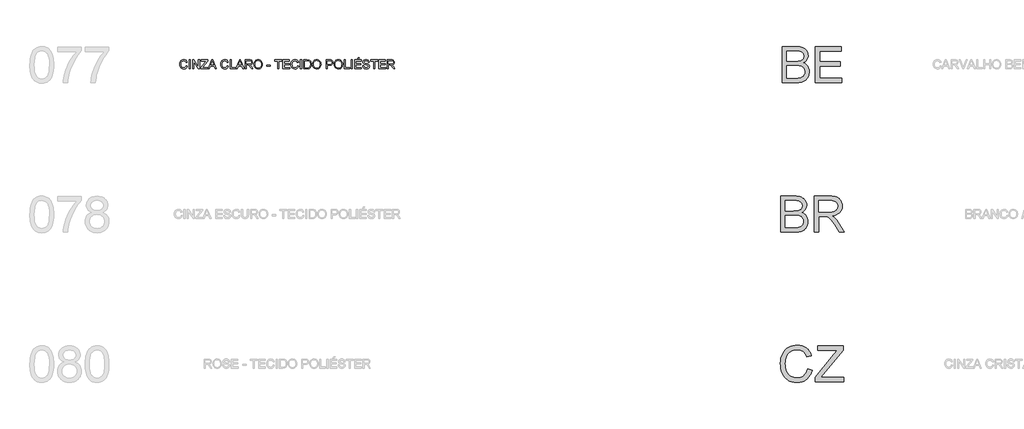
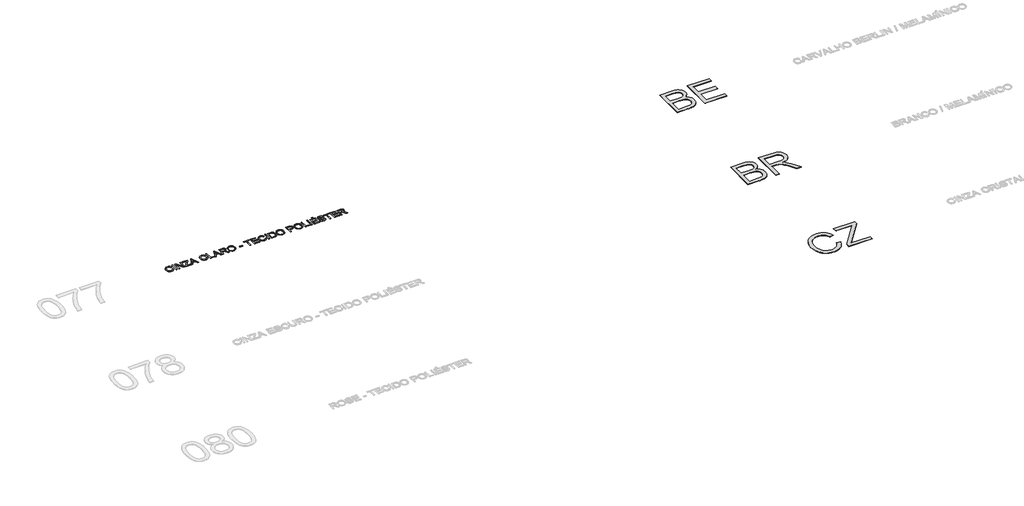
# One storey, part 30 of 67: 4 proxies.
"""IFC4 building model written with IfcOpenShell, lengths in millimetres."""

import ifcopenshell
import ifcopenshell.guid

model = None  # the IFC model being written
_history = None  # IfcOwnerHistory: only IFC2X3 demands one
_inside = {}  # id of a spatial element -> (the spatial element, [elements in it])
_under = {}  # id of a project, library or spatial element -> (it, [spatial elements below it])
_declared = {}  # id of a project -> (the project, [libraries it declares])
_typed = {}  # id of a type object -> (the type object, [elements of that type])
_made_of = {}  # id of a material, layer set ... -> (it, [elements and type objects made of it])


def new_model(schema):
    """Start an empty IFC model of exactly this schema.

    Asked for "IFC4X3", IfcOpenShell would pick the latest addendum, in which some entities
    have other attributes; the version numbers below select the first issue.
    IFC2X3 requires an IfcOwnerHistory on every rooted entity: one is made here for all.
    """
    global model, _history
    if schema == "IFC4X3":
        model = ifcopenshell.file(schema_version=(4, 3, 0, 0))
    else:
        model = ifcopenshell.file(schema=schema)
    _inside.clear()
    _under.clear()
    _declared.clear()
    _typed.clear()
    _made_of.clear()
    _history = None
    if model.schema == "IFC2X3":
        org = make("IfcOrganization", Name="unknown")
        user = make(
            "IfcPersonAndOrganization",
            ThePerson=make("IfcPerson", FamilyName="unknown"),
            TheOrganization=org,
        )
        app = make(
            "IfcApplication",
            ApplicationDeveloper=org,
            Version="unknown",
            ApplicationFullName="unknown",
            ApplicationIdentifier="unknown",
        )
        _history = make(
            "IfcOwnerHistory",
            OwningUser=user,
            OwningApplication=app,
            ChangeAction="ADDED",
            CreationDate=0,
        )
    return model


def make(cls, **values):
    """One entity of the class cls with the attributes given. An attribute that is None is left unset."""
    return model.create_entity(
        cls, **{name: value for name, value in values.items() if value is not None}
    )


def rooted(cls, **values):
    """An entity with a GlobalId (a new one), such as an element, a storey or a relation."""
    return make(cls, GlobalId=ifcopenshell.guid.new(), OwnerHistory=_history, **values)


def si_unit(unit_type, name, prefix=None):
    """IfcSIUnit, for example si_unit("LENGTHUNIT", "METRE", prefix="MILLI")."""
    return make("IfcSIUnit", UnitType=unit_type, Prefix=prefix, Name=name)


def assignment(units):
    """IfcUnitAssignment: the units of a project."""
    return None if units is None else make("IfcUnitAssignment", Units=units)


def point(xyz):
    """IfcCartesianPoint."""
    return None if xyz is None else make("IfcCartesianPoint", Coordinates=xyz)


def direction(xyz):
    """IfcDirection."""
    return None if xyz is None else make("IfcDirection", DirectionRatios=xyz)


def frame(location, z_axis=None, x_axis=None):
    """IfcAxis2Placement3D, a coordinate frame: its origin and axes. An axis left out is left unset."""
    return make(
        "IfcAxis2Placement3D",
        Location=point(location),
        Axis=direction(z_axis),
        RefDirection=direction(x_axis),
    )


def origin():
    """The frame at (0, 0, 0) with its axes left unset."""
    return frame((0.0, 0.0, 0.0))


def origin_with_axes():
    """The frame at (0, 0, 0) with the z axis (0, 0, 1) and the x axis (1, 0, 0) written out."""
    return frame((0.0, 0.0, 0.0), z_axis=(0.0, 0.0, 1.0), x_axis=(1.0, 0.0, 0.0))


def place(relative_to, where):
    """IfcLocalPlacement: puts the frame where relative to a parent placement (None: the world)."""
    return make(
        "IfcLocalPlacement", PlacementRelTo=relative_to, RelativePlacement=where
    )


def context(
    kind, dimensions, precision=None, world=None, true_north=None, identifier=None
):
    """IfcGeometricRepresentationContext, for example the 3D "Model" context."""
    return make(
        "IfcGeometricRepresentationContext",
        ContextIdentifier=identifier,
        ContextType=kind,
        CoordinateSpaceDimension=dimensions,
        Precision=precision,
        WorldCoordinateSystem=world,
        TrueNorth=true_north,
    )


def project(units=None, contexts=None):
    """IfcProject with its units and contexts."""
    return rooted(
        "IfcProject",
        Name="project",
        RepresentationContexts=contexts,
        UnitsInContext=assignment(units),
    )


def spatial(cls, under=None, at=None, **own):
    """A site, building, storey or space (cls), placed at a placement, below another one or the project."""
    s = rooted(cls, ObjectPlacement=at, **own)
    if under is not None:
        _under.setdefault(under.id(), (under, []))[1].append(s)
    return s


def polyline(points):
    """IfcPolyline through the points."""
    return make("IfcPolyline", Points=[point(p) for p in points])


def outline(outer, holes=None, kind="AREA"):
    """IfcArbitraryClosedProfileDef: a profile drawn as a closed curve; with holes, ...WithVoids."""
    if holes is None:
        return make("IfcArbitraryClosedProfileDef", ProfileType=kind, OuterCurve=outer)
    return make(
        "IfcArbitraryProfileDefWithVoids",
        ProfileType=kind,
        OuterCurve=outer,
        InnerCurves=holes,
    )


def extrude(swept, where, along, depth):
    """IfcExtrudedAreaSolid: the profile swept, set in the frame where, extruded along a direction by depth."""
    return make(
        "IfcExtrudedAreaSolid",
        SweptArea=swept,
        Position=where,
        ExtrudedDirection=direction(along),
        Depth=depth,
    )


def shape(context_of_items, identifier, shape_type, items):
    """IfcShapeRepresentation: the items that make up one representation, for example the "Body"."""
    return make(
        "IfcShapeRepresentation",
        ContextOfItems=context_of_items,
        RepresentationIdentifier=identifier,
        RepresentationType=shape_type,
        Items=items,
    )


def made_of(thing, what):
    """Note that an element or type object is made of a material, layer set ...; save() writes the relation."""
    if what is not None:
        _made_of.setdefault(what.id(), (what, []))[1].append(thing)
    return thing


def element(
    cls,
    number,
    at=None,
    inside=None,
    cuts=None,
    type_object=None,
    material=None,
    context=None,
    identifier="Body",
    shape_type=None,
    held_by="IfcProductDefinitionShape",
    body=None,
    shapes=None,
    **own,
):
    """One element of the class cls, such as IfcWall. Its Tag is "e" and its number.

    at: its placement. inside: the storey or other place that contains it. cuts: it is an
    opening in that element (IfcRelVoidsElement). A single representation is given by context,
    identifier, shape_type and body (its items); several are given by shapes. held_by: the class
    of the entity that holds the representations. save() writes the other relations.
    """
    e = rooted(cls, Tag="e%d" % number, ObjectPlacement=at, **own)
    if body is not None:
        shapes = [shape(context, identifier, shape_type, body)]
    if shapes is not None:
        e.Representation = make(held_by, Representations=shapes)
    if inside is not None:
        _inside.setdefault(inside.id(), (inside, []))[1].append(e)
    if cuts is not None:
        rooted(
            "IfcRelVoidsElement", RelatingBuildingElement=cuts, RelatedOpeningElement=e
        )
    if type_object is not None:
        _typed.setdefault(type_object.id(), (type_object, []))[1].append(e)
    return made_of(e, material)


def aggregate(whole, parts):
    """IfcRelAggregates: a whole, such as a stair, and the parts it consists of."""
    return rooted("IfcRelAggregates", RelatingObject=whole, RelatedObjects=parts)


def save(model, path):
    """Write the relations noted so far, then the file.

    IfcRelAggregates (storeys below a building ...), IfcRelContainedInSpatialStructure (elements
    in a storey), IfcRelDefinesByType, IfcRelAssociatesMaterial and IfcRelDeclares: one each for
    every whole, place, type object, material and project.
    """
    for whole, parts in _under.values():
        aggregate(whole, parts)
    for where, things in _inside.values():
        rooted(
            "IfcRelContainedInSpatialStructure",
            RelatedElements=things,
            RelatingStructure=where,
        )
    for kind, things in _typed.values():
        rooted("IfcRelDefinesByType", RelatedObjects=things, RelatingType=kind)
    for what, things in _made_of.values():
        rooted("IfcRelAssociatesMaterial", RelatedObjects=things, RelatingMaterial=what)
    for by, libraries in _declared.values():
        rooted("IfcRelDeclares", RelatingContext=by, RelatedDefinitions=libraries)
    model.write(path)


model = new_model("IFC4")

# Units and contexts
model_context = context("Model", 3, world=origin())
ifc_project = project(units=[si_unit("LENGTHUNIT", "METRE", prefix="MILLI")], contexts=[model_context])

# Site, building, storey
site = spatial("IfcSite", under=ifc_project)
building = spatial("IfcBuilding", under=site)
storey = spatial("IfcBuildingStorey", under=building, Name="Marelli - Linha COLAB - Planta Baixa", Elevation=0.0)

# Proxies
placement = place(None, origin())
element("IfcBuildingElementProxy", 1, Name="1200mm Arial", ObjectType="1200mm Arial", at=placement, inside=storey, context=model_context, shape_type="SweptSolid", body=[
    extrude(outline(polyline([(24922.4641906, -97988.8184403), (24922.4641906, -96783.3427185), (25382.4638374, -96783.3427185), (25449.1884343, -96785.5592075), (25508.9784555, -96792.2086746), (25561.8339012, -96803.2911197), (25607.7547713, -96818.8065428), (25647.909091, -96838.9204909), (25683.4648859, -96863.7985108), (25714.4221558, -96893.4406026), (25740.7809007, -96927.8467662), (25761.8329479, -96965.0764241), (25776.8701244, -97003.1889988), (25785.8924304, -97042.1844903), (25788.8998657, -97082.0628986), (25786.370677, -97118.8970833), (25778.7831108, -97154.6460162), (25766.1371672, -97189.3096972), (25748.4328462, -97222.8881263), (25725.6149655, -97254.3328398), (25697.6283427, -97282.5953741), (25664.4729779, -97307.6757291), (25626.148871, -97329.5739049), (25671.6282827, -97348.9612861), (25711.5342821, -97374.1612027), (25745.8668693, -97405.1736549), (25774.6260443, -97441.9986426), (25797.3519545, -97483.5141258), (25813.5847476, -97528.5980643), (25823.3244234, -97577.2504582), (25826.570982, -97629.4713074), (25824.354493, -97672.2651805), (25817.7050259, -97713.5323433), (25806.6225808, -97753.2727958), (25791.1071576, -97791.4865381), (25772.3175847, -97826.7848155), (25751.4126904, -97857.7788736), (25728.3924745, -97884.4687123), (25703.2569372, -97906.8543317), (25675.4174672, -97925.8554368), (25644.2854534, -97942.3917325), (25609.8608957, -97956.4632188), (25572.1437941, -97968.0698957), (25530.5455375, -97977.147384), (25484.4775147, -97983.6313041), (25378.9321703, -97988.8184403), (24922.4641906, -97988.8184403)]), holes=[polyline([(25073.1486559, -97273.0672304), (25348.3243883, -97273.0672304), (25444.5623182, -97269.8298689), (25509.0152437, -97260.1177842), (25539.117188, -97250.3413202), (25565.2644008, -97237.7873471), (25587.4568822, -97222.455865), (25605.6946321, -97204.3468738), (25619.9224682, -97183.5891322), (25630.0852084, -97160.3113989), (25636.1828524, -97134.513674), (25638.2154005, -97106.1959574), (25636.3208082, -97079.0830544), (25630.6370314, -97053.6624085), (25621.16407, -97029.9340198), (25607.9019241, -97007.8978883), (25591.108111, -96988.3725514), (25571.0401481, -96972.1765466), (25547.6980355, -96959.3098738), (25521.0817732, -96949.7725331), (25487.7884526, -96942.8839427), (25444.4151654, -96937.963521), (25327.4286909, -96934.0271837), (25073.1486559, -96934.0271837), (25073.1486559, -97273.0672304)]), polyline([(25073.1486559, -97838.133975), (25382.1695318, -97838.133975), (25449.8598189, -97836.6624471), (25494.0056583, -97832.2478631), (25545.9138079, -97819.1880523), (25588.6249075, -97799.4327891), (25623.3529678, -97771.1426637), (25651.3119995, -97732.478266), (25662.0633508, -97709.6879764), (25669.7428874, -97685.1686414), (25674.3506094, -97658.9202611), (25675.8865168, -97630.9428354), (25674.083895, -97598.3484906), (25668.6760297, -97567.9614378), (25659.6629208, -97539.781677), (25647.0445683, -97513.8092081), (25630.388711, -97490.7889922), (25609.2630874, -97471.4659904), (25583.6676976, -97455.8402027), (25553.6025416, -97443.911629), (25517.7432441, -97435.0916582), (25474.76543, -97428.791679), (25367.454252, -97423.7516957), (25073.1486559, -97423.7516957), (25073.1486559, -97838.133975)])]), origin_with_axes(), (0.0, 0.0, 1.0), 10.0),
    extrude(outline(polyline([(26033.7621217, -97988.8184403), (26033.7621217, -96783.3427185), (26900.1977967, -96783.3427185), (26900.1977967, -96934.0271837), (26184.4465869, -96934.0271837), (26184.4465869, -97291.9027886), (26862.5266804, -97291.9027886), (26862.5266804, -97442.5872538), (26184.4465869, -97442.5872538), (26184.4465869, -97838.133975), (26919.0333549, -97838.133975), (26919.0333549, -97988.8184403), (26033.7621217, -97988.8184403)])), origin_with_axes(), (0.0, 0.0, 1.0), 10.0),
])
element("IfcBuildingElementProxy", 2, Name="1200mm Arial", ObjectType="1200mm Arial", at=placement, inside=storey, context=model_context, shape_type="SweptSolid", body=[
    extrude(outline(polyline([(24875.3752953, -102988.8184403), (24875.3752953, -101783.3427185), (25335.374942, -101783.3427185), (25402.0995389, -101785.5592075), (25461.8895602, -101792.2086746), (25514.7450058, -101803.2911197), (25560.6658759, -101818.8065428), (25600.8201956, -101838.9204909), (25636.3759905, -101863.7985108), (25667.3332604, -101893.4406026), (25693.6920053, -101927.8467662), (25714.7440525, -101965.0764241), (25729.7812291, -102003.1889988), (25738.803535, -102042.1844903), (25741.8109703, -102082.0628986), (25739.2817816, -102118.8970833), (25731.6942154, -102154.6460162), (25719.0482718, -102189.3096972), (25701.3439508, -102222.8881263), (25678.5260701, -102254.3328398), (25650.5394473, -102282.5953741), (25617.3840825, -102307.6757291), (25579.0599756, -102329.5739049), (25624.5393873, -102348.9612861), (25664.4453867, -102374.1612027), (25698.7779739, -102405.1736549), (25727.5371489, -102441.9986426), (25750.2630591, -102483.5141258), (25766.4958522, -102528.5980643), (25776.235528, -102577.2504582), (25779.4820866, -102629.4713074), (25777.2655976, -102672.2651805), (25770.6161305, -102713.5323433), (25759.5336854, -102753.2727958), (25744.0182623, -102791.4865381), (25725.2286894, -102826.7848155), (25704.323795, -102857.7788736), (25681.3035791, -102884.4687123), (25656.1680418, -102906.8543317), (25628.3285718, -102925.8554368), (25597.196558, -102942.3917325), (25562.7720003, -102956.4632188), (25525.0548987, -102968.0698957), (25483.4566421, -102977.147384), (25437.3886193, -102983.6313041), (25331.8432749, -102988.8184403), (24875.3752953, -102988.8184403)]), holes=[polyline([(25026.0597605, -102273.0672304), (25301.2354929, -102273.0672304), (25397.4734228, -102269.8298689), (25461.9263484, -102260.1177842), (25492.0282926, -102250.3413202), (25518.1755054, -102237.7873471), (25540.3679868, -102222.455865), (25558.6057367, -102204.3468738), (25572.8335729, -102183.5891322), (25582.996313, -102160.3113989), (25589.093957, -102134.513674), (25591.1265051, -102106.1959574), (25589.2319128, -102079.0830544), (25583.548136, -102053.6624085), (25574.0751746, -102029.9340198), (25560.8130287, -102007.8978883), (25544.0192156, -101988.3725514), (25523.9512528, -101972.1765466), (25500.6091402, -101959.3098738), (25473.9928778, -101949.7725331), (25440.6995572, -101942.8839427), (25397.32627, -101937.963521), (25280.3397955, -101934.0271837), (25026.0597605, -101934.0271837), (25026.0597605, -102273.0672304)]), polyline([(25026.0597605, -102838.133975), (25335.0806364, -102838.133975), (25402.7709235, -102836.6624471), (25446.916763, -102832.2478631), (25498.8249125, -102819.1880523), (25541.5360121, -102799.4327891), (25576.2640725, -102771.1426637), (25604.2231041, -102732.478266), (25614.9744554, -102709.6879764), (25622.6539921, -102685.1686414), (25627.261714, -102658.9202611), (25628.7976214, -102630.9428354), (25626.9949996, -102598.3484906), (25621.5871343, -102567.9614378), (25612.5740254, -102539.781677), (25599.955673, -102513.8092081), (25583.2998156, -102490.7889922), (25562.1741921, -102471.4659904), (25536.5788022, -102455.8402027), (25506.5136462, -102443.911629), (25470.6543487, -102435.0916582), (25427.6765346, -102428.791679), (25320.3653566, -102423.7516957), (25026.0597605, -102423.7516957), (25026.0597605, -102838.133975)])]), origin_with_axes(), (0.0, 0.0, 1.0), 10.0),
    extrude(outline(polyline([(25986.6732263, -102988.8184403), (25986.6732263, -101783.3427185), (26506.1226035, -101783.3427185), (26580.6830868, -101785.3752665), (26645.7338206, -101791.4729106), (26701.2748049, -101801.6356507), (26747.3060395, -101815.8634868), (26786.5038661, -101835.250868), (26821.5446261, -101860.8922431), (26852.4283196, -101892.787612), (26879.1549466, -101930.9369749), (26900.7220286, -101973.2893896), (26916.1270871, -102017.793914), (26925.3701222, -102064.450548), (26928.4511339, -102113.2592917), (26923.3467713, -102175.1738315), (26908.0336832, -102232.0115998), (26882.5118698, -102283.7725965), (26846.781331, -102330.4568217), (26824.9728265, -102351.5226644), (26800.3822144, -102370.5743533), (26742.8546674, -102402.6352692), (26674.19869, -102426.6395693), (26594.4142823, -102442.5872538), (26644.0783517, -102475.0344458), (26680.0572108, -102507.0401794), (26741.7878096, -102580.2486964), (26802.1940332, -102662.1392285), (27003.2047554, -102988.8184403), (26828.0929257, -102988.8184403), (26671.2280429, -102738.9529891), (26608.4673745, -102643.597976), (26557.9203884, -102573.5532441), (26515.7978999, -102525.3239145), (26478.3107246, -102495.4151083), (26442.8101121, -102477.8671372), (26406.647312, -102466.7203127), (26371.4042168, -102462.7471872), (26319.2385499, -102461.422812), (26137.3576915, -102461.422812), (26137.3576915, -102988.8184403), (25986.6732263, -102988.8184403)]), holes=[polyline([(26137.3576915, -102310.7383468), (26474.6319047, -102310.7383468), (26571.495234, -102305.4040578), (26611.7875095, -102298.7361967), (26646.6535256, -102289.401191), (26676.8750315, -102277.1323265), (26703.2337765, -102261.6628886), (26725.7297605, -102242.9928773), (26744.3629836, -102221.1222927), (26758.9770958, -102197.1271896), (26769.4157474, -102172.0836228), (26775.6789384, -102145.9915923), (26777.7666687, -102118.8510981), (26773.7843461, -102080.3154591), (26761.8373783, -102045.3482754), (26741.9257653, -102013.9495471), (26714.0495071, -101986.1192742), (26677.5648103, -101963.3289846), (26631.8278812, -101947.0502063), (26576.83872, -101937.2829394), (26512.5973266, -101934.0271837), (26137.3576915, -101934.0271837), (26137.3576915, -102310.7383468)])]), origin_with_axes(), (0.0, 0.0, 1.0), 10.0),
])
element("IfcBuildingElementProxy", 3, Name="1200mm Arial", ObjectType="1200mm Arial", at=placement, inside=storey, context=model_context, shape_type="SweptSolid", body=[
    extrude(outline(polyline([(25770.0643075, -107560.3094923), (25920.7487727, -107599.157831), (25907.0773581, -107647.4906274), (25890.931937, -107692.8665722), (25872.3125096, -107735.2856655), (25851.2190757, -107774.7479073), (25827.6516353, -107811.2532975), (25801.6101886, -107844.8018362), (25773.0947355, -107875.3935234), (25742.1052759, -107903.028359), (25708.9775022, -107927.5499932), (25674.0471068, -107948.8020762), (25637.3140896, -107966.784608), (25598.7784506, -107981.4975886), (25558.4401898, -107992.9410179), (25516.2993073, -108001.114896), (25472.3558029, -108006.0192228), (25426.6096768, -108007.6539984), (25334.7219515, -108002.7059856), (25251.8289409, -107987.8619471), (25177.9306451, -107963.1218829), (25144.3545153, -107947.0408412), (25113.0270641, -107928.4857931), (25056.2260841, -107884.4687123), (25006.6355911, -107831.5856755), (24964.2555853, -107769.8366826), (24929.0860666, -107699.2217337), (24901.4673258, -107622.7942492), (24881.7396538, -107543.6076497), (24869.9030506, -107461.6619353), (24865.9575162, -107376.9571059), (24870.4180854, -107286.071859), (24883.7997929, -107201.1830886), (24906.1026389, -107122.2907947), (24937.3266232, -107049.3949774), (24976.7727702, -106983.7004501), (25023.7421039, -106926.4120264), (25078.2346244, -106877.5297063), (25140.2503318, -106837.0534898), (25207.6831015, -106805.3144706), (25278.4268092, -106782.6437427), (25352.4814548, -106769.0413059), (25429.8470384, -106764.5071603), (25516.0325928, -106770.3748781), (25556.4421307, -106777.7095254), (25595.0628424, -106787.9780316), (25631.8947279, -106801.1803967), (25666.9377872, -106817.3166207), (25700.1920203, -106836.3867036), (25731.6574272, -106858.3906455), (25761.0672935, -106883.0571333), (25788.1549046, -106910.114854), (25812.9202607, -106939.5638077), (25835.3633617, -106971.4039944), (25855.4842075, -107005.6354141), (25873.2827983, -107042.2580667), (25901.9132146, -107122.6770708), (25751.2287494, -107158.5823536), (25727.5003607, -107099.3257612), (25698.9895061, -107048.6960016), (25665.6961855, -107006.6930748), (25627.620399, -106973.3169808), (25584.5414174, -106947.8871379), (25536.2385114, -106929.7229644), (25482.7116811, -106918.8244602), (25423.9609265, -106915.1916255), (25356.3626098, -106919.2199334), (25294.5400406, -106931.3048569), (25238.4932186, -106951.4463962), (25188.222144, -106979.6445511), (25144.3614131, -107014.6301288), (25107.5456224, -107055.1339365), (25077.774772, -107101.1559741), (25055.0488617, -107152.6962416), (25038.2458516, -107207.4186884), (25026.2437015, -107262.9872638), (25019.0424114, -107319.4019677), (25016.6419814, -107376.6628003), (25019.4838698, -107448.6205185), (25028.0095351, -107515.8693473), (25042.2189771, -107578.4092864), (25062.112196, -107636.2403361), (25088.0110885, -107688.212865), (25120.2375512, -107733.1772418), (25158.7915843, -107771.1334667), (25203.6731878, -107802.0815395), (25252.7026607, -107826.0950367), (25303.7003022, -107843.2475348), (25356.6661125, -107853.5390336), (25411.6000914, -107856.9695332), (25477.1106777, -107852.2974319), (25537.3789456, -107838.2811278), (25592.404895, -107814.9206211), (25642.188526, -107782.2159118), (25685.5526162, -107740.3141525), (25721.3199432, -107689.3624962), (25749.4905069, -107629.3609428), (25770.0643075, -107560.3094923)])), origin_with_axes(), (0.0, 0.0, 1.0), 10.0),
    extrude(outline(polyline([(26033.7621217, -107988.8184403), (26033.7621217, -107832.5421687), (26650.3323456, -107077.6483146), (26767.4659728, -106934.0271837), (26109.1043543, -106934.0271837), (26109.1043543, -106783.3427185), (26956.7044712, -106783.3427185), (26956.7044712, -106934.0271837), (26281.8617392, -107760.1429921), (26218.2917304, -107838.133975), (26975.5400293, -107838.133975), (26975.5400293, -107988.8184403), (26033.7621217, -107988.8184403)])), origin_with_axes(), (0.0, 0.0, 1.0), 10.0),
])
element("IfcBuildingElementProxy", 4, Name="300mm Arial", ObjectType="300mm Arial", at=placement, inside=storey, context=model_context, shape_type="SweptSolid", body=[
    extrude(outline(polyline([(5037.4116395, -97423.4390831), (5075.0827558, -97433.1511677), (5067.6285469, -97456.5783531), (5057.7003315, -97477.0486868), (5045.2981098, -97494.5621691), (5030.4218816, -97509.1187997), (5013.4073393, -97520.5622291), (4994.5901753, -97528.7361071), (4973.9703894, -97533.640434), (4951.5479818, -97535.2752096), (4907.8527979, -97530.3271968), (4873.1523287, -97515.4831583), (4846.5544604, -97491.2581289), (4827.1670793, -97458.1671434), (4815.3304761, -97419.2636224), (4811.3849417, -97377.6009865), (4815.8455109, -97333.6574821), (4829.2272184, -97295.7104543), (4850.8310886, -97264.9647166), (4879.9581456, -97242.6250824), (4914.5022649, -97229.0226457), (4952.3573222, -97224.4885001), (4993.6612732, -97230.3562179), (5011.6300094, -97237.6908652), (5027.8099194, -97247.9593714), (5041.9342888, -97260.8904235), (5053.736403, -97276.2127086), (5070.3738663, -97314.0309777), (5032.70275, -97323.0072984), (5019.6429391, -97295.5357104), (5001.8006624, -97276.6909552), (4978.9551905, -97265.7924511), (4950.8857942, -97262.1596164), (4918.5305728, -97266.1879242), (4891.9510986, -97278.2728478), (4871.7819682, -97297.1451941), (4858.6577781, -97321.5357704), (4851.456488, -97349.1085259), (4849.056058, -97377.5274101), (4851.8979464, -97412.3290468), (4860.4236116, -97442.421794), (4874.9549504, -97466.6560205), (4895.8138596, -97483.8820949), (4920.8206382, -97494.1735937), (4947.7955855, -97497.6040933), (4979.240299, -97492.931992), (5005.4426941, -97478.9156879), (5025.2255484, -97455.702334), (5037.4116395, -97423.4390831)])), origin_with_axes(), (0.0, 0.0, 1.0), 10.0),
    extrude(outline(polyline([(5131.5894303, -97530.5663201), (5131.5894303, -97229.1973896), (5169.2605466, -97229.1973896), (5169.2605466, -97530.5663201), (5131.5894303, -97530.5663201)])), origin_with_axes(), (0.0, 0.0, 1.0), 10.0),
    extrude(outline(polyline([(5244.6027792, -97530.5663201), (5244.6027792, -97229.1973896), (5284.9226459, -97229.1973896), (5442.3761398, -97467.9528045), (5442.3761398, -97229.1973896), (5480.0472561, -97229.1973896), (5480.0472561, -97530.5663201), (5439.7273894, -97530.5663201), (5282.2738955, -97291.7373288), (5282.2738955, -97530.5663201), (5244.6027792, -97530.5663201)])), origin_with_axes(), (0.0, 0.0, 1.0), 10.0),
    extrude(outline(polyline([(5522.4272619, -97530.5663201), (5522.4272619, -97491.4972522), (5676.5698179, -97302.7737887), (5705.8532247, -97266.8685059), (5541.2628201, -97266.8685059), (5541.2628201, -97229.1973896), (5753.1628493, -97229.1973896), (5753.1628493, -97266.8685059), (5584.4521663, -97473.397458), (5568.5596641, -97492.8952038), (5757.8717389, -97492.8952038), (5757.8717389, -97530.5663201), (5522.4272619, -97530.5663201)])), origin_with_axes(), (0.0, 0.0, 1.0), 10.0),
    extrude(outline(polyline([(5765.1558024, -97530.5663201), (5885.4532148, -97229.1973896), (5917.5325248, -97229.1973896), (6037.8299372, -97530.5663201), (5998.0251053, -97530.5663201), (5963.5177742, -97436.3885293), (5839.394389, -97436.3885293), (5804.9606342, -97530.5663201), (5765.1558024, -97530.5663201)]), holes=[polyline([(5853.226752, -97398.717413), (5949.7589875, -97398.717413), (5922.6092963, -97324.6259792), (5901.4928698, -97266.8685059), (5882.730888, -97318.1512561), (5853.226752, -97398.717413)])]), origin_with_axes(), (0.0, 0.0, 1.0), 10.0),
    extrude(outline(polyline([(6407.6984951, -97423.4390831), (6445.3696114, -97433.1511677), (6437.9154025, -97456.5783531), (6427.9871872, -97477.0486868), (6415.5849654, -97494.5621691), (6400.7087372, -97509.1187997), (6383.694195, -97520.5622291), (6364.8770309, -97528.7361071), (6344.2572451, -97533.640434), (6321.8348375, -97535.2752096), (6278.1396535, -97530.3271968), (6243.4391843, -97515.4831583), (6216.841316, -97491.2581289), (6197.4539349, -97458.1671434), (6185.6173317, -97419.2636224), (6181.6717973, -97377.6009865), (6186.1323665, -97333.6574821), (6199.5140741, -97295.7104543), (6221.1179442, -97264.9647166), (6250.2450012, -97242.6250824), (6284.7891206, -97229.0226457), (6322.6441779, -97224.4885001), (6363.9481289, -97230.3562179), (6381.9168651, -97237.6908652), (6398.0967751, -97247.9593714), (6412.2211444, -97260.8904235), (6424.0232587, -97276.2127086), (6440.6607219, -97314.0309777), (6402.9896056, -97323.0072984), (6389.9297948, -97295.5357104), (6372.087518, -97276.6909552), (6349.2420461, -97265.7924511), (6321.1726499, -97262.1596164), (6288.8174284, -97266.1879242), (6262.2379542, -97278.2728478), (6242.0688239, -97297.1451941), (6228.9446337, -97321.5357704), (6221.7433436, -97349.1085259), (6219.3429136, -97377.5274101), (6222.184802, -97412.3290468), (6230.7104673, -97442.421794), (6245.2418061, -97466.6560205), (6266.1007152, -97483.8820949), (6291.1074938, -97494.1735937), (6318.0824411, -97497.6040933), (6349.5271547, -97492.931992), (6375.7295498, -97478.9156879), (6395.5124041, -97455.702334), (6407.6984951, -97423.4390831)])), origin_with_axes(), (0.0, 0.0, 1.0), 10.0),
    extrude(outline(polyline([(6497.1673964, -97530.5663201), (6497.1673964, -97229.1973896), (6534.8385127, -97229.1973896), (6534.8385127, -97492.8952038), (6685.5229779, -97492.8952038), (6685.5229779, -97530.5663201), (6497.1673964, -97530.5663201)])), origin_with_axes(), (0.0, 0.0, 1.0), 10.0),
    extrude(outline(polyline([(6692.8070414, -97530.5663201), (6813.1044538, -97229.1973896), (6845.1837638, -97229.1973896), (6965.4811762, -97530.5663201), (6925.6763444, -97530.5663201), (6891.1690132, -97436.3885293), (6767.045628, -97436.3885293), (6732.6118733, -97530.5663201), (6692.8070414, -97530.5663201)]), holes=[polyline([(6780.877991, -97398.717413), (6877.4102266, -97398.717413), (6850.2605353, -97324.6259792), (6829.1441088, -97266.8685059), (6810.3821271, -97318.1512561), (6780.877991, -97398.717413)])]), origin_with_axes(), (0.0, 0.0, 1.0), 10.0),
    extrude(outline(polyline([(7005.7274665, -97530.5663201), (7005.7274665, -97229.1973896), (7135.5898108, -97229.1973896), (7170.4926151, -97231.2299376), (7195.8856698, -97237.3275817), (7214.4453165, -97248.5847708), (7228.8478966, -97266.0959537), (7238.0909317, -97287.8101885), (7241.1719434, -97311.6765329), (7236.0675807, -97341.3646099), (7220.7544927, -97365.9759154), (7209.1547135, -97376.0052983), (7194.7728268, -97384.0205273), (7157.6627305, -97394.0085235), (7179.0734626, -97410.1217548), (7209.6076682, -97448.8965171), (7259.8603488, -97530.5663201), (7216.0823913, -97530.5663201), (7176.8661707, -97468.0999573), (7148.539257, -97426.750021), (7128.6368411, -97407.2154871), (7110.7209879, -97400.0417882), (7088.8687974, -97398.717413), (7043.3985828, -97398.717413), (7043.3985828, -97530.5663201), (7005.7274665, -97530.5663201)]), holes=[polyline([(7043.3985828, -97361.0462967), (7127.7171361, -97361.0462967), (7151.9329684, -97359.7127245), (7170.7225413, -97355.7120078), (7184.8676041, -97348.7774322), (7195.1499058, -97338.6422832), (7201.4130968, -97326.3826157), (7203.5008271, -97313.0744845), (7199.5185045, -97294.6987789), (7187.5715367, -97279.8915286), (7167.0161302, -97270.1242616), (7137.2084916, -97266.8685059), (7043.3985828, -97266.8685059), (7043.3985828, -97361.0462967)])]), origin_with_axes(), (0.0, 0.0, 1.0), 10.0),
    extrude(outline(polyline([(7292.9697283, -97383.8549804), (7295.480523, -97348.5061192), (7303.0129068, -97317.213157), (7315.5668799, -97289.9760937), (7333.1424422, -97266.7949295), (7354.6865316, -97248.2858666), (7379.1460857, -97235.0651074), (7406.5211047, -97227.1326519), (7436.8115884, -97224.4885001), (7476.3405088, -97229.454907), (7511.7859391, -97244.3541278), (7541.2164987, -97268.1376988), (7562.7008072, -97299.7571563), (7575.8341944, -97337.68579), (7580.2119902, -97380.3968896), (7575.6042682, -97423.6782064), (7561.7811022, -97462.140269), (7539.5058474, -97493.8149087), (7509.5418589, -97516.733957), (7474.3999313, -97530.6398965), (7436.5908593, -97535.2752096), (7396.4549336, -97530.1524528), (7360.8071682, -97514.7841825), (7331.450185, -97490.5591531), (7310.1866057, -97458.8661192), (7297.2739477, -97422.3998164), (7292.9697283, -97383.8549804)]), holes=[polyline([(7330.6408446, -97384.2228624), (7332.5239406, -97409.1974513), (7338.1732285, -97431.3669401), (7347.5887083, -97450.7313286), (7360.77038, -97467.2906169), (7376.7939402, -97480.5527628), (7394.7350853, -97490.0257242), (7414.5938152, -97495.709501), (7436.3701301, -97497.6040933), (7458.5189254, -97495.6911069), (7478.6121802, -97489.9521478), (7496.6498942, -97480.3872159), (7512.6320677, -97466.9963113), (7525.7171704, -97450.0875351), (7535.0636723, -97429.9689885), (7540.6715735, -97406.6406715), (7542.5408739, -97380.102584), (7539.3403005, -97346.7540812), (7529.7385804, -97317.9305269), (7513.984034, -97294.358488), (7492.3249815, -97276.7645316), (7466.1961628, -97265.8108452), (7437.0323176, -97262.1596164), (7416.0124601, -97263.9185522), (7396.5101159, -97269.1953595), (7378.5252848, -97277.9900385), (7362.057967, -97290.302589), (7348.312976, -97306.7262208), (7338.4951252, -97327.8541437), (7332.6044148, -97353.6863575), (7330.6408446, -97384.2228624)])]), origin_with_axes(), (0.0, 0.0, 1.0), 10.0),
    extrude(outline(polyline([(7726.1875659, -97441.0974188), (7726.1875659, -97403.4263025), (7843.9098043, -97403.4263025), (7843.9098043, -97441.0974188), (7726.1875659, -97441.0974188)])), origin_with_axes(), (0.0, 0.0, 1.0), 10.0),
    extrude(outline(polyline([(8084.0631708, -97530.5663201), (8084.0631708, -97266.8685059), (7985.1764905, -97266.8685059), (7985.1764905, -97229.1973896), (8220.6209674, -97229.1973896), (8220.6209674, -97266.8685059), (8121.7342871, -97266.8685059), (8121.7342871, -97530.5663201), (8084.0631708, -97530.5663201)])), origin_with_axes(), (0.0, 0.0, 1.0), 10.0),
    extrude(outline(polyline([(8263.0009732, -97530.5663201), (8263.0009732, -97229.1973896), (8479.609892, -97229.1973896), (8479.609892, -97266.8685059), (8300.6720895, -97266.8685059), (8300.6720895, -97356.3374072), (8470.1921129, -97356.3374072), (8470.1921129, -97394.0085235), (8300.6720895, -97394.0085235), (8300.6720895, -97492.8952038), (8484.3187815, -97492.8952038), (8484.3187815, -97530.5663201), (8263.0009732, -97530.5663201)])), origin_with_axes(), (0.0, 0.0, 1.0), 10.0),
    extrude(outline(polyline([(8752.7254852, -97423.4390831), (8790.3966015, -97433.1511677), (8782.9423926, -97456.5783531), (8773.0141772, -97477.0486868), (8760.6119555, -97494.5621691), (8745.7357273, -97509.1187997), (8728.721185, -97520.5622291), (8709.904021, -97528.7361071), (8689.2842351, -97533.640434), (8666.8618275, -97535.2752096), (8623.1666435, -97530.3271968), (8588.4661744, -97515.4831583), (8561.8683061, -97491.2581289), (8542.480925, -97458.1671434), (8530.6443218, -97419.2636224), (8526.6987874, -97377.6009865), (8531.1593566, -97333.6574821), (8544.5410641, -97295.7104543), (8566.1449343, -97264.9647166), (8595.2719913, -97242.6250824), (8629.8161106, -97229.0226457), (8667.6711679, -97224.4885001), (8708.9751189, -97230.3562179), (8726.9438551, -97237.6908652), (8743.1237651, -97247.9593714), (8757.2481345, -97260.8904235), (8769.0502487, -97276.2127086), (8785.687712, -97314.0309777), (8748.0165957, -97323.0072984), (8734.9567848, -97295.5357104), (8717.1145081, -97276.6909552), (8694.2690362, -97265.7924511), (8666.1996399, -97262.1596164), (8633.8444185, -97266.1879242), (8607.2649443, -97278.2728478), (8587.0958139, -97297.1451941), (8573.9716237, -97321.5357704), (8566.7703337, -97349.1085259), (8564.3699037, -97377.5274101), (8567.2117921, -97412.3290468), (8575.7374573, -97442.421794), (8590.2687961, -97466.6560205), (8611.1277053, -97483.8820949), (8636.1344839, -97494.1735937), (8663.1094312, -97497.6040933), (8694.5541447, -97492.931992), (8720.7565398, -97478.9156879), (8740.5393941, -97455.702334), (8752.7254852, -97423.4390831)])), origin_with_axes(), (0.0, 0.0, 1.0), 10.0),
    extrude(outline(polyline([(8846.903276, -97530.5663201), (8846.903276, -97229.1973896), (8884.5743923, -97229.1973896), (8884.5743923, -97530.5663201), (8846.903276, -97530.5663201)])), origin_with_axes(), (0.0, 0.0, 1.0), 10.0),
    extrude(outline(polyline([(8959.9166249, -97530.5663201), (8959.9166249, -97229.1973896), (9063.8800767, -97229.1973896), (9117.6644244, -97233.5383972), (9141.6871187, -97241.9077126), (9161.9574166, -97255.0962821), (9182.7979317, -97278.0521186), (9197.6419702, -97306.5997614), (9206.5263203, -97340.1873876), (9209.4877704, -97378.2631741), (9207.4828135, -97410.6091985), (9201.4679429, -97439.0740679), (9192.3076812, -97463.3082943), (9180.8665512, -97482.9623899), (9167.6963758, -97498.477813), (9153.3489779, -97510.2960221), (9136.8770616, -97519.0608107), (9117.3333306, -97525.4159721), (9068.8832719, -97530.5663201), (8959.9166249, -97530.5663201)]), holes=[polyline([(8997.5877412, -97492.8952038), (9064.2479587, -97492.8952038), (9091.8207143, -97491.5340404), (9112.7348057, -97487.4505502), (9128.5169433, -97480.8838566), (9140.6938373, -97472.0730828), (9153.7812393, -97455.7667134), (9163.6128856, -97434.6594839), (9169.765712, -97408.6594239), (9171.8166541, -97377.6745629), (9167.7975433, -97336.6189322), (9155.7402109, -97306.3054558), (9137.9255253, -97285.4833349), (9116.6343548, -97272.9017706), (9094.9661053, -97268.3768221), (9063.2178891, -97266.8685059), (8997.5877412, -97266.8685059), (8997.5877412, -97492.8952038)])]), origin_with_axes(), (0.0, 0.0, 1.0), 10.0),
    extrude(outline(polyline([(9247.1588867, -97383.8549804), (9249.6696813, -97348.5061192), (9257.2020652, -97317.213157), (9269.7560383, -97289.9760937), (9287.3316006, -97266.7949295), (9308.8756899, -97248.2858666), (9333.3352441, -97235.0651074), (9360.7102631, -97227.1326519), (9391.0007468, -97224.4885001), (9430.5296672, -97229.454907), (9465.9750974, -97244.3541278), (9495.4056571, -97268.1376988), (9516.8899656, -97299.7571563), (9530.0233528, -97337.68579), (9534.4011485, -97380.3968896), (9529.7934266, -97423.6782064), (9515.9702606, -97462.140269), (9493.6950058, -97493.8149087), (9463.7310173, -97516.733957), (9428.5890897, -97530.6398965), (9390.7800176, -97535.2752096), (9350.644092, -97530.1524528), (9314.9963266, -97514.7841825), (9285.6393434, -97490.5591531), (9264.3757641, -97458.8661192), (9251.4631061, -97422.3998164), (9247.1588867, -97383.8549804)]), holes=[polyline([(9284.830003, -97384.2228624), (9286.713099, -97409.1974513), (9292.3623869, -97431.3669401), (9301.7778667, -97450.7313286), (9314.9595384, -97467.2906169), (9330.9830986, -97480.5527628), (9348.9242436, -97490.0257242), (9368.7829736, -97495.709501), (9390.5592884, -97497.6040933), (9412.7080838, -97495.6911069), (9432.8013385, -97489.9521478), (9450.8390526, -97480.3872159), (9466.821226, -97466.9963113), (9479.9063288, -97450.0875351), (9489.2528307, -97429.9689885), (9494.8607319, -97406.6406715), (9496.7300322, -97380.102584), (9493.5294589, -97346.7540812), (9483.9277388, -97317.9305269), (9468.1731924, -97294.358488), (9446.5141399, -97276.7645316), (9420.3853212, -97265.8108452), (9391.221476, -97262.1596164), (9370.2016185, -97263.9185522), (9350.6992743, -97269.1953595), (9332.7144432, -97277.9900385), (9316.2471254, -97290.302589), (9302.5021344, -97306.7262208), (9292.6842836, -97327.8541437), (9286.7935732, -97353.6863575), (9284.830003, -97384.2228624)])]), origin_with_axes(), (0.0, 0.0, 1.0), 10.0),
    extrude(outline(polyline([(9703.9211719, -97530.5663201), (9703.9211719, -97229.1973896), (9815.6101457, -97229.1973896), (9860.6389019, -97232.0668692), (9880.7160618, -97237.4287493), (9897.2431604, -97246.1567496), (9910.5512916, -97258.6463433), (9920.9715491, -97275.2930036), (9927.7037896, -97294.9287051), (9929.9478698, -97316.3854225), (9928.4326558, -97334.8852883), (9923.8870139, -97351.9044291), (9916.3109441, -97367.4428449), (9905.7044463, -97381.5005356), (9891.1432171, -97393.1531978), (9871.7029529, -97401.476528), (9847.3836537, -97406.470526), (9818.1853196, -97408.1351921), (9741.5922882, -97408.1351921), (9741.5922882, -97530.5663201), (9703.9211719, -97530.5663201)]), holes=[polyline([(9741.5922882, -97370.4640758), (9820.3926116, -97370.4640758), (9853.7962968, -97367.005985), (9875.8692165, -97356.6317127), (9888.1748692, -97339.9850525), (9892.2767535, -97317.7097977), (9889.8579293, -97300.7872259), (9882.601457, -97286.5134045), (9871.4086473, -97275.7712502), (9857.1808111, -97269.4436799), (9819.5096948, -97266.8685059), (9741.5922882, -97266.8685059), (9741.5922882, -97370.4640758)])]), origin_with_axes(), (0.0, 0.0, 1.0), 10.0),
    extrude(outline(polyline([(9967.6189861, -97383.8549804), (9970.1297807, -97348.5061192), (9977.6621645, -97317.213157), (9990.2161376, -97289.9760937), (10007.7916999, -97266.7949295), (10029.3357893, -97248.2858666), (10053.7953434, -97235.0651074), (10081.1703624, -97227.1326519), (10111.4608462, -97224.4885001), (10150.9897666, -97229.454907), (10186.4351968, -97244.3541278), (10215.8657564, -97268.1376988), (10237.3500649, -97299.7571563), (10250.4834522, -97337.68579), (10254.8612479, -97380.3968896), (10250.2535259, -97423.6782064), (10236.4303599, -97462.140269), (10214.1551051, -97493.8149087), (10184.1911166, -97516.733957), (10149.049189, -97530.6398965), (10111.240117, -97535.2752096), (10071.1041913, -97530.1524528), (10035.456426, -97514.7841825), (10006.0994428, -97490.5591531), (9984.8358634, -97458.8661192), (9971.9232054, -97422.3998164), (9967.6189861, -97383.8549804)]), holes=[polyline([(10005.2901024, -97384.2228624), (10007.1731983, -97409.1974513), (10012.8224862, -97431.3669401), (10022.237966, -97450.7313286), (10035.4196378, -97467.2906169), (10051.4431979, -97480.5527628), (10069.384343, -97490.0257242), (10089.2430729, -97495.709501), (10111.0193878, -97497.6040933), (10133.1681832, -97495.6911069), (10153.2614379, -97489.9521478), (10171.299152, -97480.3872159), (10187.2813254, -97466.9963113), (10200.3664281, -97450.0875351), (10209.71293, -97429.9689885), (10215.3208312, -97406.6406715), (10217.1901316, -97380.102584), (10213.9895582, -97346.7540812), (10204.3878382, -97317.9305269), (10188.6332917, -97294.358488), (10166.9742393, -97276.7645316), (10140.8454205, -97265.8108452), (10111.6815754, -97262.1596164), (10090.6617179, -97263.9185522), (10071.1593736, -97269.1953595), (10053.1745426, -97277.9900385), (10036.7072248, -97290.302589), (10022.9622337, -97306.7262208), (10013.144383, -97327.8541437), (10007.2536725, -97353.6863575), (10005.2901024, -97384.2228624)])]), origin_with_axes(), (0.0, 0.0, 1.0), 10.0),
    extrude(outline(polyline([(10306.6590328, -97530.5663201), (10306.6590328, -97229.1973896), (10344.3301491, -97229.1973896), (10344.3301491, -97492.8952038), (10495.0146144, -97492.8952038), (10495.0146144, -97530.5663201), (10306.6590328, -97530.5663201)])), origin_with_axes(), (0.0, 0.0, 1.0), 10.0),
    extrude(outline(polyline([(10542.1035097, -97530.5663201), (10542.1035097, -97229.1973896), (10579.774626, -97229.1973896), (10579.774626, -97530.5663201), (10542.1035097, -97530.5663201)])), origin_with_axes(), (0.0, 0.0, 1.0), 10.0),
    extrude(outline(polyline([(10655.1168587, -97530.5663201), (10655.1168587, -97229.1973896), (10871.7257774, -97229.1973896), (10871.7257774, -97266.8685059), (10692.787975, -97266.8685059), (10692.787975, -97356.3374072), (10862.3079983, -97356.3374072), (10862.3079983, -97394.0085235), (10692.787975, -97394.0085235), (10692.787975, -97492.8952038), (10876.434667, -97492.8952038), (10876.434667, -97530.5663201), (10655.1168587, -97530.5663201)])), origin_with_axes(), (0.0, 0.0, 1.0), 10.0),
    extrude(outline(polyline([(10739.8768703, -97210.3618315), (10768.1302076, -97153.855157), (10815.219103, -97153.855157), (10768.1302076, -97210.3618315), (10739.8768703, -97210.3618315)])), origin_with_axes(), (0.0, 0.0, 1.0), 10.0),
    extrude(outline(polyline([(10918.8146728, -97426.9707502), (10956.4857891, -97426.9707502), (10960.8084025, -97447.8756446), (10968.6258949, -97464.6786547), (10980.8211831, -97478.0143771), (10998.2771838, -97488.517408), (11019.6143395, -97495.332422), (11043.4530928, -97497.6040933), (11064.4407606, -97495.884245), (11082.8164662, -97490.7247), (11097.70649, -97482.5577197), (11108.2371121, -97471.8155654), (11114.5003031, -97459.4823216), (11116.5880334, -97446.5420724), (11115.0245349, -97433.932917), (11110.3340395, -97423.0344129), (11100.8058958, -97413.7361954), (11084.7294526, -97405.9279001), (11029.8782471, -97391.5437141), (10993.8717969, -97382.0247675), (10970.8331869, -97372.9656733), (10952.0804022, -97360.2921386), (10938.7906651, -97344.9330653), (10930.8720052, -97327.2195472), (10928.2324519, -97307.4826782), (10931.4974046, -97285.4189555), (10941.2922627, -97264.845155), (10957.3595088, -97247.4075484), (10979.4416256, -97234.7524077), (11005.9475234, -97227.054477), (11035.2861125, -97224.4885001), (11067.0711169, -97227.1740386), (11094.8829957, -97235.2306543), (11117.7284676, -97248.4928003), (11134.6142512, -97266.7949295), (11145.3012231, -97288.9966079), (11149.5502602, -97313.9574013), (11111.8791439, -97313.9574013), (11104.9629624, -97291.4798114), (11090.5419881, -97275.2562154), (11068.0092159, -97265.4337661), (11036.7576405, -97262.1596164), (11004.770301, -97265.3969779), (10982.82614, -97275.1090626), (10970.1342111, -97289.4012781), (10965.9035682, -97306.3790322), (10968.9018064, -97320.8551887), (10977.8965212, -97332.4986539), (10999.1601005, -97342.9097143), (11039.4063908, -97353.541504), (11080.9402681, -97363.6398648), (11106.0666083, -97372.4506385), (11127.5417198, -97386.1174547), (11142.5237141, -97402.9848441), (11151.3252908, -97422.868866), (11154.2591497, -97445.5855792), (11150.8838324, -97468.8081301), (11140.7578805, -97490.6511236), (11124.2951612, -97509.4498935), (11101.9095418, -97523.539774), (11074.9897768, -97532.3413507), (11044.9246207, -97535.2752096), (11008.0168596, -97532.1114244), (10977.6390038, -97522.620069), (10953.4415656, -97506.764355), (10935.075057, -97484.5074943), (10923.284439, -97457.3945912), (10918.8146728, -97426.9707502)])), origin_with_axes(), (0.0, 0.0, 1.0), 10.0),
    extrude(outline(polyline([(11286.1080568, -97530.5663201), (11286.1080568, -97266.8685059), (11187.2213765, -97266.8685059), (11187.2213765, -97229.1973896), (11422.6658534, -97229.1973896), (11422.6658534, -97266.8685059), (11323.7791731, -97266.8685059), (11323.7791731, -97530.5663201), (11286.1080568, -97530.5663201)])), origin_with_axes(), (0.0, 0.0, 1.0), 10.0),
    extrude(outline(polyline([(11465.0458592, -97530.5663201), (11465.0458592, -97229.1973896), (11681.654778, -97229.1973896), (11681.654778, -97266.8685059), (11502.7169755, -97266.8685059), (11502.7169755, -97356.3374072), (11672.2369989, -97356.3374072), (11672.2369989, -97394.0085235), (11502.7169755, -97394.0085235), (11502.7169755, -97492.8952038), (11686.3636675, -97492.8952038), (11686.3636675, -97530.5663201), (11465.0458592, -97530.5663201)])), origin_with_axes(), (0.0, 0.0, 1.0), 10.0),
    extrude(outline(polyline([(11742.870342, -97530.5663201), (11742.870342, -97229.1973896), (11872.7326863, -97229.1973896), (11907.6354906, -97231.2299376), (11933.0285453, -97237.3275817), (11951.588192, -97248.5847708), (11965.9907721, -97266.0959537), (11975.2338072, -97287.8101885), (11978.3148189, -97311.6765329), (11973.2104562, -97341.3646099), (11957.8973682, -97365.9759154), (11946.297589, -97376.0052983), (11931.9157023, -97384.0205273), (11894.805606, -97394.0085235), (11916.2163381, -97410.1217548), (11946.7505437, -97448.8965171), (11997.0032243, -97530.5663201), (11953.2252668, -97530.5663201), (11914.0090462, -97468.0999573), (11885.6821325, -97426.750021), (11865.7797166, -97407.2154871), (11847.8638634, -97400.0417882), (11826.0116729, -97398.717413), (11780.5414583, -97398.717413), (11780.5414583, -97530.5663201), (11742.870342, -97530.5663201)]), holes=[polyline([(11780.5414583, -97361.0462967), (11864.8600116, -97361.0462967), (11889.0758439, -97359.7127245), (11907.8654168, -97355.7120078), (11922.0104795, -97348.7774322), (11932.2927813, -97338.6422832), (11938.5559723, -97326.3826157), (11940.6437026, -97313.0744845), (11936.66138, -97294.6987789), (11924.7144122, -97279.8915286), (11904.1590057, -97270.1242616), (11874.3513671, -97266.8685059), (11780.5414583, -97266.8685059), (11780.5414583, -97361.0462967)])]), origin_with_axes(), (0.0, 0.0, 1.0), 10.0),
])

save(model, "model.ifc")
